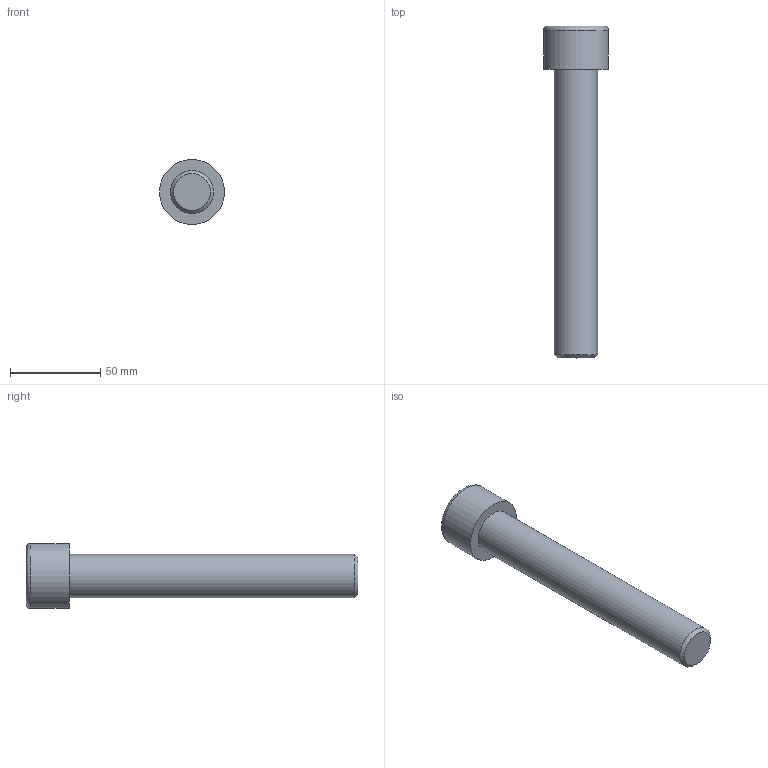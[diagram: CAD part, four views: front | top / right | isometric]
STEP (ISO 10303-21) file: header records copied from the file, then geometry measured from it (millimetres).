
FILE_DESCRIPTION(/* description */ (''),/* implementation_level */ '2;1');
FILE_NAME(/* name */ 'C:\Users\D\Documents\Inventor\各種小物\JIS\JIS B 1176 六角穴付きボルト\M24x160.stp',/* time_stamp */ '2022-05-09T18:59:44+09:00',/* author */ ('D'),/* organization */ (''),/* preprocessor_version */ 'ST-DEVELOPER v18',/* originating_system */ 'Autodesk Inventor 2020',/* authorisation */ '');
FILE_SCHEMA (('AUTOMOTIVE_DESIGN { 1 0 10303 214 3 1 1 }'));
Length unit declared in the file: millimetre
Products named in the file (1): M1.6x2.5
Bounding box: 36 x 184 x 36 mm (x, y, z)
Volume: 92026.8 mm3; surface area: 17483.9 mm2
Topology: 1 solids, 1 shells, 14 faces, 33 edges, 22 vertices
Faces by surface type: plane 9, cone 2, cylinder 2, torus 1
Full cylindrical faces by diameter (mm): 24 x1, 36 x1
Entity records: 435 total; most frequent: CARTESIAN_POINT 83, ORIENTED_EDGE 64, DIRECTION 64, EDGE_CURVE 32, AXIS2_PLACEMENT_3D 24, VERTEX_POINT 22, EDGE_LOOP 16, LINE 16
